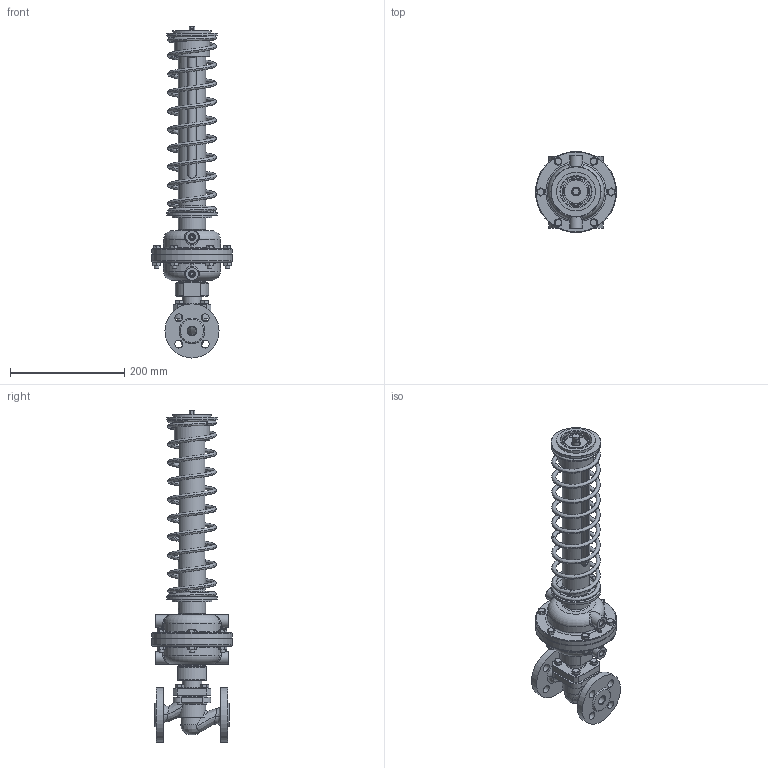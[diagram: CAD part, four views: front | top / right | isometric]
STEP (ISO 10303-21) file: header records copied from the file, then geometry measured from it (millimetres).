
FILE_DESCRIPTION(/* description */ (''),/* implementation_level */ '2;1');
FILE_NAME(/* name */ 'G:\Работа\library\3d база\Клапаны КПСР3d\Клапаны КПСР3d\2. В работе\1. РА\old\2017.06.06 Разборные исправленыне\Готовые\РА Ду 15.stp',/* time_stamp */ '2017-06-06T14:56:33+03:00',/* author */ ('User'),/* organization */ ('unknown'),/* preprocessor_version */ 'ST-DEVELOPER v16.13',/* originating_system */ 'Autodesk Inventor 2018',/* authorisation */ '');
FILE_SCHEMA (('AUTOMOTIVE_DESIGN { 1 0 10303 214 3 1 1 }'));
Products named in the file (1): РА Ду 15
Bounding box: 142 x 142 x 582.39 mm (x, y, z)
Volume: 1246199.7 mm3; surface area: 425492.1 mm2
Topology: 3 solids, 19 shells, 737 faces, 1728 edges, 1098 vertices
Faces by surface type: plane 267, cylinder 206, cone 106, bspline 92, torus 65, sphere 1
Full cylindrical faces by diameter (mm): 2 x1, 4 x1, 5 x1, 6.5 x1, 7 x4, 8 x20, 8.2 x4, 9 x10, 10 x1, 10.5 x4, 11 x2, 12 x3, 12.2 x4, 13.7 x1, 14 x9, 14.5 x3, 15 x5, 16 x1, 17 x1, 20 x6, 20.5 x1, 22 x4, 26 x1, 26.4 x1, 28 x1, 30 x3, 32 x1, 33.8 x1, 34 x2, 36 x3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
Entity records: 45884 total; most frequent: CARTESIAN_POINT 31597, DIRECTION 2815, ORIENTED_EDGE 2626, EDGE_CURVE 1306, AXIS2_PLACEMENT_3D 1250, EDGE_LOOP 1184, VERTEX_POINT 966, FACE_OUTER_BOUND 737
